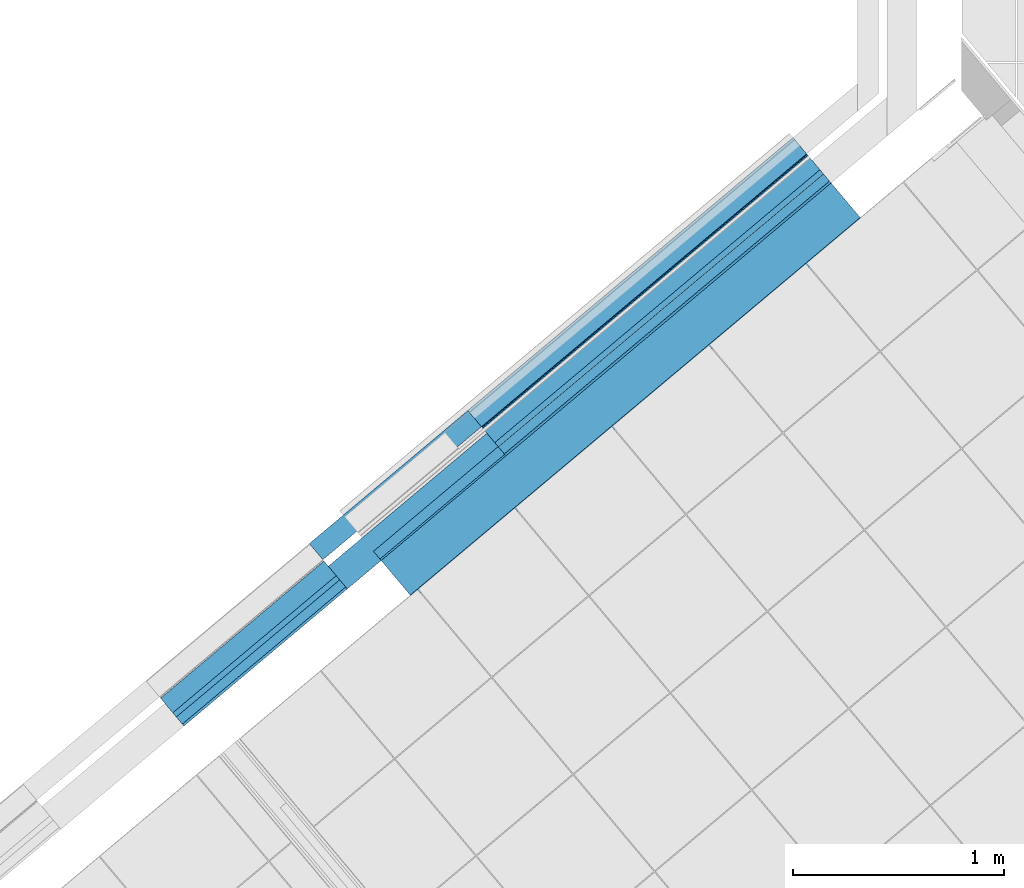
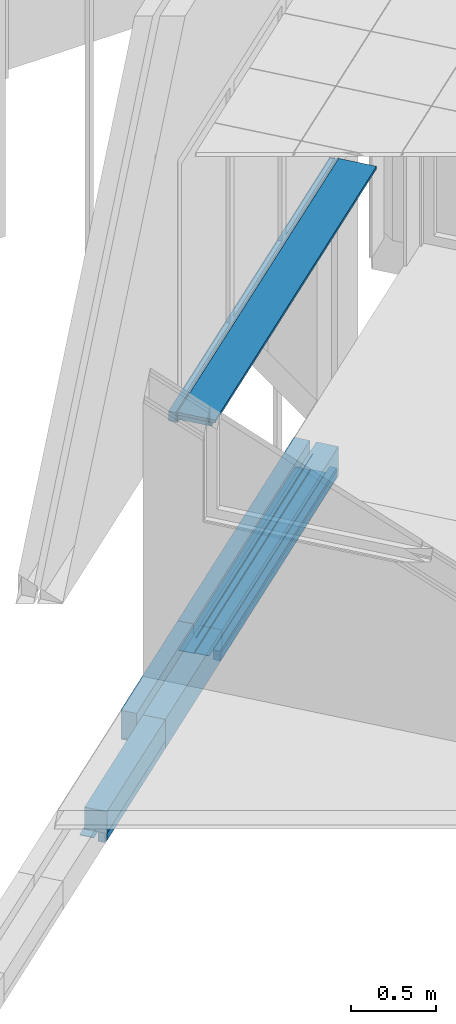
# One storey, part 56 of 321: 17 building element parts, 4 elements without a shape of their own.
"""IFC2X3 building model written with IfcOpenShell, lengths in millimetres."""

from ifc_helpers import new_model, entity, si_unit, converted_unit, derived_unit, money_unit, direction, frame, origin_with_axes, place, context, subcontext, project, spatial, faceted_brep, material, type_object, element, aggregate, save


model = new_model("IFC2X3")

# Units and contexts
model_context = context("Model", 3, precision=0.01, world=origin_with_axes(), true_north=direction((0.0, 1.0)))
plan_context = context("Plan", 3, precision=0.01, world=origin_with_axes(), true_north=direction((0.0, 1.0)))
body_context = subcontext(model_context, "Body", "Model", "MODEL_VIEW")
ifc_project = project(units=[si_unit("LENGTHUNIT", "METRE", prefix="MILLI"), si_unit("AREAUNIT", "SQUARE_METRE"), si_unit("VOLUMEUNIT", "CUBIC_METRE"), converted_unit("PLANEANGLEUNIT", "DEGREE", entity("IfcPlaneAngleMeasure", 0.0174532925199), si_unit("PLANEANGLEUNIT", "RADIAN"), dimensions=[0, 0, 0, 0, 0, 0, 0]), money_unit("EUR"), converted_unit("TIMEUNIT", "Year", entity("IfcTimeMeasure", 31556926.0), si_unit("TIMEUNIT", "SECOND"), dimensions=[0, 0, 1, 0, 0, 0, 0]), si_unit("MASSUNIT", "GRAM", prefix="KILO"), si_unit("THERMODYNAMICTEMPERATUREUNIT", "DEGREE_CELSIUS"), si_unit("LUMINOUSINTENSITYUNIT", "LUMEN"), si_unit("ENERGYUNIT", "JOULE", prefix="MEGA"), derived_unit("THERMALCONDUCTANCEUNIT", [(si_unit("POWERUNIT", "WATT"), 1), (si_unit("LENGTHUNIT", "METRE"), -1), (si_unit("THERMODYNAMICTEMPERATUREUNIT", "KELVIN"), -1)]), derived_unit("SPECIFICHEATCAPACITYUNIT", [(si_unit("ENERGYUNIT", "JOULE"), 1), (si_unit("MASSUNIT", "GRAM", prefix="KILO"), -1), (si_unit("THERMODYNAMICTEMPERATUREUNIT", "KELVIN"), -1)]), derived_unit("MASSDENSITYUNIT", [(si_unit("MASSUNIT", "GRAM", prefix="KILO"), 1), (si_unit("VOLUMEUNIT", "CUBIC_METRE"), -1)])], contexts=[model_context, plan_context])

# Site, building, storey
site_placement = place(None, origin_with_axes())
site = spatial("IfcSite", under=ifc_project, at=site_placement, Name="Fortuinstraat Woensdrecht", CompositionType="ELEMENT")
building_placement = place(site_placement, origin_with_axes())
building = spatial("IfcBuilding", under=site, at=building_placement, Name="IKC Fortuna", CompositionType="ELEMENT")
storey_placement = place(building_placement, frame((0.0, 0.0, 4000.0), z_axis=(0.0, 0.0, 1.0), x_axis=(1.0, 0.0, 0.0)))
storey = spatial("IfcBuildingStorey", under=building, at=storey_placement, Name="01 eerste verdieping", CompositionType="ELEMENT", Elevation=4000.0)

# Covering, building element parts
covering_type_1 = type_object("IfcCoveringType", Name="41 Latei MW rollaag 280 x 227", PredefinedType="NOTDEFINED")
covering_1_placement = place(storey_placement, frame((10037.4088106, 8605.14305143, 237.5), z_axis=(0.0, 0.0, 1.0), x_axis=(0.766044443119, 0.642787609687, 0.0)))
covering_1 = element("IfcCovering", 1, at=covering_1_placement, inside=storey, type_object=covering_type_1, Name="41_Afwerking_Latei + rollaag", PredefinedType="NOTDEFINED")
ifc_material_1 = material(Name="Metaal - Staal AFW")
building_element_part_1_placement = place(covering_1_placement, origin_with_axes())
building_element_part_1 = element("IfcBuildingElementPart", 2, at=building_element_part_1_placement, material=ifc_material_1, Name="Metaal - Staal AFW", context=body_context, shape_type="Brep", body=[
    faceted_brep([(1010.0, 32.0, 2.5), (1010.0, 27.4409013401, 2.5), (1010.0, 27.4409013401, 4.0), (1010.0, -58.0, 4.0), (1010.0, -58.0, 0.0), (1010.0, 32.0, 0.0), (0.0, 32.0, 2.5), (0.0, 27.4409013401, 2.5), (0.0, 27.4409013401, 4.0), (0.0, -58.0, 4.0), (0.0, -58.0, 0.0), (0.0, 32.0, 0.0)], [[[0, 1, 2, 3, 4, 5]], [[1, 0, 6, 7]], [[8, 2, 1, 7]], [[2, 8, 9, 3]], [[10, 4, 3, 9]], [[11, 5, 4, 10]], [[6, 0, 5, 11]], [[7, 6, 11, 10, 9, 8]]]),
])
ifc_material_2 = material(Name="ALG - ISOLATIE")
building_element_part_2_placement = place(covering_1_placement, origin_with_axes())
building_element_part_2 = element("IfcBuildingElementPart", 3, at=building_element_part_2_placement, material=ifc_material_2, Name="ALG - ISOLATIE", context=body_context, shape_type="Brep", body=[
    faceted_brep([(0.0, -140.0, 53.0), (1010.0, -140.0, 53.0), (1010.0, -140.0, 210.0), (0.0, -140.0, 210.0), (0.0, -83.9999988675, 53.0000013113), (1010.0, -83.9999988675, 53.0000013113), (1010.0, 0.0, 53.0), (1010.0, 0.0, 210.0), (0.0, 0.0, 210.0), (0.0, 0.0, 53.0)], [[[0, 1, 2, 3]], [[4, 5, 1, 0]], [[2, 1, 5, 6, 7]], [[3, 2, 7, 8]], [[4, 0, 3, 8, 9]], [[9, 6, 5, 4]], [[8, 7, 6, 9]]]),
])
ifc_material_3 = material(Name="Hout AFW")
building_element_part_3_placement = place(covering_1_placement, origin_with_axes())
building_element_part_3 = element("IfcBuildingElementPart", 4, at=building_element_part_3_placement, material=ifc_material_3, Name="Hout AFW", context=body_context, shape_type="Brep", body=[
    faceted_brep([(0.0, -127.999998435, 53.0000013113), (1010.0, -127.999998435, 53.0000013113), (1010.0, -83.9999988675, 53.0000013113), (0.0, -83.9999988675, 53.0000013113), (0.0, -127.999998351, -1.28576260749e-07), (1010.0, -127.999998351, -1.28576260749e-07), (1010.0, -127.999998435, -17.0), (1010.0, -83.9999988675, -17.0), (0.0, -83.9999988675, -17.0), (0.0, -127.999998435, -17.0)], [[[0, 1, 2, 3]], [[4, 5, 1, 0]], [[2, 1, 5, 6, 7]], [[3, 2, 7, 8]], [[4, 0, 3, 8, 9]], [[9, 6, 5, 4]], [[8, 7, 6, 9]]]),
])
ifc_material_4 = material(Name="Isolatie - PUR gespoten")
building_element_part_4_placement = place(covering_1_placement, origin_with_axes())
building_element_part_4 = element("IfcBuildingElementPart", 5, at=building_element_part_4_placement, material=ifc_material_4, Name="Isolatie - PUR gespoten", context=body_context, shape_type="Brep", body=[
    faceted_brep([(0.0, -139.999999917, 53.0000002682), (1010.0, -139.999999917, 53.0000002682), (1010.0, -127.999998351, 53.0000013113), (0.0, -127.999998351, 53.0000013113), (0.0, -139.999999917, -1.28576260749e-07), (1010.0, -139.999999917, -1.28576260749e-07), (1010.0, -127.999998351, -1.28576260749e-07), (0.0, -127.999998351, -1.28576260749e-07)], [[[0, 1, 2, 3]], [[4, 5, 1, 0]], [[2, 1, 5, 6]], [[3, 2, 6, 7]], [[4, 0, 3, 7]], [[7, 6, 5, 4]]]),
])
aggregate(covering_1, [building_element_part_1, building_element_part_2, building_element_part_3, building_element_part_4])

covering_type_2 = type_object("IfcCoveringType", Name="41 Rollaag 280 x 210", PredefinedType="NOTDEFINED")
covering_2_placement = place(storey_placement, frame((10811.1136981, 9254.35853721, 237.5), z_axis=(0.0, 0.0, 1.0), x_axis=(0.766044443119, 0.642787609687, 0.0)))
covering_2 = element("IfcCovering", 6, at=covering_2_placement, inside=storey, type_object=covering_type_2, Name="41_Afwerking_Rollaag", PredefinedType="NOTDEFINED")
ifc_material_5 = material(Name="Steen - Baksteen Accent Rollaag")
building_element_part_5_placement = place(covering_2_placement, origin_with_axes())
building_element_part_5 = element("IfcBuildingElementPart", 7, at=building_element_part_5_placement, material=ifc_material_5, Name="Steen - Baksteen Accent Rollaag", context=body_context, shape_type="Brep", body=[
    faceted_brep([(104.323191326, 40.0, 2.5), (0.0, 40.0, 2.5), (0.0, 40.0, 0.0), (980.000020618, 40.0, 0.0), (980.000020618, 40.0, 2.5), (830.00002065, 40.0, 2.5), (830.00002065, 40.0, 18.3217893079), (980.000020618, 40.0, 18.3217893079), (980.000020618, 40.0, 210.0), (0.0, 40.0, 210.0), (0.0, 40.0, 18.3217893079), (104.323191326, 40.0, 18.3217893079), (104.323191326, 127.44090134, 2.49999999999), (0.0, 127.44090134, 2.49999999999), (0.0, 40.9556199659, 16.0147186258), (0.0, 140.0, 210.0), (0.0, 140.0, 0.0), (0.0, 127.44090134, 6.49999999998), (0.0, 125.683542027, 10.7426406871), (0.0, 121.44090134, 12.5), (0.0, 49.4409013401, 12.5), (980.000020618, 140.0, 0.0), (980.000020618, 127.44090134, 2.49999999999), (980.000020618, 140.0, 210.0), (980.000020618, 40.9556199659, 16.0147186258), (980.000020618, 49.4409013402, 12.5), (980.000020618, 121.44090134, 12.5), (980.000020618, 125.683542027, 10.7426406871), (980.000020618, 127.44090134, 6.49999999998), (830.00002065, 127.44090134, 2.49999999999), (830.00002065, 127.44090134, 6.49999999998), (830.00002065, 125.683542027, 10.7426406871), (830.00002065, 121.44090134, 12.5), (830.00002065, 49.4409013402, 12.5), (830.00002065, 40.9556199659, 16.0147186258), (104.323191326, 40.9556199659, 16.0147186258), (104.323191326, 49.4409013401, 12.5), (104.323191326, 121.44090134, 12.5), (104.323191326, 125.683542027, 10.7426406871), (104.323191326, 127.44090134, 6.49999999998)], [[[0, 1, 2, 3, 4, 5, 6, 7, 8, 9, 10, 11]], [[1, 0, 12, 13]], [[14, 10, 9, 15, 16, 2, 1, 13, 17, 18, 19, 20]], [[16, 21, 3, 2]], [[22, 4, 3, 21, 23, 8, 7, 24, 25, 26, 27, 28]], [[5, 4, 22, 29]], [[6, 5, 29, 30, 31, 32, 33, 34]], [[24, 7, 6, 34]], [[9, 8, 23, 15]], [[11, 10, 14, 35]], [[0, 11, 35, 36, 37, 38, 39, 12]], [[17, 13, 12, 39]], [[15, 23, 21, 16]], [[18, 17, 39, 38]], [[19, 18, 38, 37]], [[20, 19, 37, 36]], [[14, 20, 36, 35]], [[25, 24, 34, 33]], [[26, 25, 33, 32]], [[27, 26, 32, 31]], [[28, 27, 31, 30]], [[22, 28, 30, 29]]]),
])
building_element_part_6_placement = place(covering_2_placement, origin_with_axes())
building_element_part_6 = element("IfcBuildingElementPart", 8, at=building_element_part_6_placement, material=ifc_material_2, Name="ALG - ISOLATIE", context=body_context, shape_type="Brep", body=[
    faceted_brep([(0.0, 0.0, 0.0), (980.000020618, 0.0, 0.0), (980.000020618, -140.0, 0.0), (0.0, -140.0, 0.0), (0.0, 0.0, 210.0), (980.000020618, 0.0, 210.0), (980.000020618, -140.0, 210.0), (0.0, -140.0, 210.0)], [[[0, 1, 2, 3]], [[4, 5, 1, 0]], [[2, 1, 5, 6]], [[3, 2, 6, 7]], [[4, 0, 3, 7]], [[7, 6, 5, 4]]]),
])
aggregate(covering_2, [building_element_part_5, building_element_part_6])

covering_3_placement = place(storey_placement, frame((11561.8372682, 9884.29040795, 237.5), z_axis=(0.0, 0.0, 1.0), x_axis=(0.766044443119, 0.642787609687, 0.0)))
covering_3 = element("IfcCovering", 9, at=covering_3_placement, inside=storey, type_object=covering_type_1, Name="41_Afwerking_Latei + rollaag", PredefinedType="NOTDEFINED")
ifc_material_6 = material(Name="Metaal - Staal C")
building_element_part_7_placement = place(covering_3_placement, origin_with_axes())
building_element_part_7 = element("IfcBuildingElementPart", 10, at=building_element_part_7_placement, material=ifc_material_6, Name="Metaal - Staal C", context=body_context, shape_type="Brep", body=[
    faceted_brep([(2010.0, 36.6213203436, 2.5), (2010.0, 32.0, 2.5), (2010.0, 32.0, 0.0), (2010.0, 33.1715728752, -2.82842712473), (2010.0, 36.0, -4.0), (2010.0, 115.215535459, -4.0), (2010.0, 135.215535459, -8.0), (2010.0, 136.0, -4.07767729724), (2010.0, 115.609685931, 0.0), (2010.0, 40.0, 0.0), (2010.0, 37.1715728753, 1.17157287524), (0.0, 32.0, 2.5), (0.0, 36.6213203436, 2.5), (0.0, 32.0, 0.0), (0.0, 33.1715728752, -2.82842712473), (0.0, 36.0, -4.0), (0.0, 115.215535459, -4.0), (0.0, 135.215535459, -8.0), (0.0, 136.0, -4.07767729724), (0.0, 115.609685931, 0.0), (0.0, 40.0, 0.0), (0.0, 37.1715728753, 1.17157287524)], [[[0, 1, 2, 3, 4, 5, 6, 7, 8, 9, 10]], [[11, 1, 0, 12]], [[1, 11, 13, 2]], [[14, 3, 2, 13]], [[15, 4, 3, 14]], [[16, 5, 4, 15]], [[17, 6, 5, 16]], [[18, 7, 6, 17]], [[19, 8, 7, 18]], [[20, 9, 8, 19]], [[21, 10, 9, 20]], [[12, 0, 10, 21]], [[11, 12, 21, 20, 19, 18, 17, 16, 15, 14, 13]]]),
    faceted_brep([(2010.0, 27.4409013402, 109.55909866), (2010.0, 27.4409013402, 115.160983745), (2010.0, 20.8284271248, 121.828427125), (2010.0, 18.0000000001, 119.0), (0.0, 27.4409013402, 115.160983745), (0.0, 27.4409013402, 109.55909866), (0.0, 20.8284271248, 121.828427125), (0.0, 18.0000000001, 119.0)], [[[0, 1, 2, 3]], [[4, 1, 0, 5]], [[1, 4, 6, 2]], [[7, 3, 2, 6]], [[5, 0, 3, 7]], [[4, 5, 7, 6]]]),
])
building_element_part_8_placement = place(covering_3_placement, origin_with_axes())
building_element_part_8 = element("IfcBuildingElementPart", 11, at=building_element_part_8_placement, material=ifc_material_5, Name="Steen - Baksteen Accent Rollaag", context=body_context, shape_type="Brep", body=[
    faceted_brep([(0.0, 40.0, 18.3217893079), (2010.0, 40.0, 18.3217893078), (2010.0, 40.0, 210.0), (0.0, 40.0, 210.0), (2010.0, 40.9556199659, 16.0147186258), (0.0, 40.9556199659, 16.0147186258), (2010.0, 127.44090134, 2.49999999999), (2010.0, 40.0, 2.5), (2010.0, 40.0, 0.0), (2010.0, 115.609685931, 0.0), (2010.0, 140.0, 0.0), (2010.0, 140.0, 210.0), (2010.0, 49.4409013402, 12.5), (2010.0, 121.44090134, 12.5), (2010.0, 125.683542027, 10.7426406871), (2010.0, 127.44090134, 6.49999999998), (0.0, 140.0, 210.0), (0.0, 140.0, 0.0), (0.0, 115.609685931, 0.0), (0.0, 40.0, 0.0), (0.0, 40.0, 2.5), (0.0, 127.44090134, 2.49999999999), (0.0, 127.44090134, 6.49999999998), (0.0, 125.683542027, 10.7426406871), (0.0, 121.44090134, 12.5), (0.0, 49.4409013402, 12.5)], [[[0, 1, 2, 3]], [[4, 1, 0, 5]], [[6, 7, 8, 9, 10, 11, 2, 1, 4, 12, 13, 14, 15]], [[3, 2, 11, 16]], [[5, 0, 3, 16, 17, 18, 19, 20, 21, 22, 23, 24, 25]], [[12, 4, 5, 25]], [[20, 7, 6, 21]], [[7, 20, 19, 8]], [[18, 9, 8, 19]], [[17, 10, 9, 18]], [[16, 11, 10, 17]], [[13, 12, 25, 24]], [[14, 13, 24, 23]], [[15, 14, 23, 22]], [[6, 15, 22, 21]]]),
])
building_element_part_9_placement = place(covering_3_placement, origin_with_axes())
building_element_part_9 = element("IfcBuildingElementPart", 12, at=building_element_part_9_placement, material=ifc_material_1, Name="Metaal - Staal AFW", context=body_context, shape_type="Brep", body=[
    faceted_brep([(2010.0, 32.0, 2.5), (2010.0, 27.4409013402, 2.5), (2010.0, 27.4409013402, 4.0), (2010.0, -58.0, 4.0), (2010.0, -58.0, 0.0), (2010.0, 32.0, 0.0), (0.0, 32.0, 2.5), (0.0, 27.4409013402, 2.5), (0.0, 27.4409013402, 4.0), (0.0, -58.0, 4.0), (0.0, -58.0, 0.0), (0.0, 32.0, 0.0)], [[[0, 1, 2, 3, 4, 5]], [[1, 0, 6, 7]], [[8, 2, 1, 7]], [[2, 8, 9, 3]], [[10, 4, 3, 9]], [[11, 5, 4, 10]], [[6, 0, 5, 11]], [[7, 6, 11, 10, 9, 8]]]),
])
building_element_part_10_placement = place(covering_3_placement, origin_with_axes())
building_element_part_10 = element("IfcBuildingElementPart", 13, at=building_element_part_10_placement, material=ifc_material_2, Name="ALG - ISOLATIE", context=body_context, shape_type="Brep", body=[
    faceted_brep([(0.0, -140.0, 53.0), (2010.0, -140.0, 53.0), (2010.0, -140.0, 210.0), (0.0, -140.0, 210.0), (0.0, -83.9999988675, 53.0000013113), (2010.0, -83.9999988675, 53.0000013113), (2010.0, 0.0, 53.0), (2010.0, 0.0, 210.0), (0.0, 0.0, 210.0), (0.0, 0.0, 53.0)], [[[0, 1, 2, 3]], [[4, 5, 1, 0]], [[2, 1, 5, 6, 7]], [[3, 2, 7, 8]], [[4, 0, 3, 8, 9]], [[9, 6, 5, 4]], [[8, 7, 6, 9]]]),
])
building_element_part_11_placement = place(covering_3_placement, origin_with_axes())
building_element_part_11 = element("IfcBuildingElementPart", 14, at=building_element_part_11_placement, material=ifc_material_3, Name="Hout AFW", context=body_context, shape_type="Brep", body=[
    faceted_brep([(0.0, -127.999998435, 53.0000013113), (2010.0, -127.999998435, 53.0000013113), (2010.0, -83.9999988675, 53.0000013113), (0.0, -83.9999988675, 53.0000013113), (0.0, -127.999998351, -1.28576260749e-07), (2010.0, -127.999998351, -1.28576260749e-07), (2010.0, -127.999998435, -17.0), (2010.0, -83.9999988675, -17.0), (0.0, -83.9999988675, -17.0), (0.0, -127.999998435, -17.0)], [[[0, 1, 2, 3]], [[4, 5, 1, 0]], [[2, 1, 5, 6, 7]], [[3, 2, 7, 8]], [[4, 0, 3, 8, 9]], [[9, 6, 5, 4]], [[8, 7, 6, 9]]]),
])
building_element_part_12_placement = place(covering_3_placement, origin_with_axes())
building_element_part_12 = element("IfcBuildingElementPart", 15, at=building_element_part_12_placement, material=ifc_material_4, Name="Isolatie - PUR gespoten", context=body_context, shape_type="Brep", body=[
    faceted_brep([(0.0, -139.999999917, 53.0000002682), (2010.0, -139.999999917, 53.0000002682), (2010.0, -127.999998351, 53.0000013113), (0.0, -127.999998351, 53.0000013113), (0.0, -139.999999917, -1.28576260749e-07), (2010.0, -139.999999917, -1.28576260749e-07), (2010.0, -127.999998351, -1.28576260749e-07), (0.0, -127.999998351, -1.28576260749e-07)], [[[0, 1, 2, 3]], [[4, 5, 1, 0]], [[2, 1, 5, 6]], [[3, 2, 6, 7]], [[4, 0, 3, 7]], [[7, 6, 5, 4]]]),
])
aggregate(covering_3, [building_element_part_7, building_element_part_8, building_element_part_9, building_element_part_10, building_element_part_11, building_element_part_12])

covering_type_3 = type_object("IfcCoveringType", Name="41 Waterslag MW 545 x 90", PredefinedType="NOTDEFINED")
covering_4_placement = place(storey_placement, frame((13101.5865988, 11176.2935034, 2522.49999925), z_axis=(0.0, 0.0, 1.0), x_axis=(-0.766044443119, -0.642787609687, 0.0)))
covering_4 = element("IfcCovering", 16, at=covering_4_placement, inside=storey, type_object=covering_type_3, Name="41_Afwerking_Waterslag", PredefinedType="NOTDEFINED")
ifc_material_7 = material(Name="Steen - Natuursteen AFW")
building_element_part_13_placement = place(covering_4_placement, origin_with_axes())
building_element_part_13 = element("IfcBuildingElementPart", 17, at=building_element_part_13_placement, material=ifc_material_7, Name="Steen - Natuursteen AFW", context=body_context, shape_type="Brep", body=[
    faceted_brep([(2780.83841466, 353.999999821, -20.0000025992), (2780.83841466, 140.0, -20.0), (0.0, 140.0, -20.0), (0.0, 353.999999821, -20.0000025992), (2780.83841466, 378.0, -20.0), (2780.83841466, 378.0, 0.0), (2780.83841466, 140.0, 0.0), (0.0, 140.0, 0.0), (0.0, 378.0, 0.0), (0.0, 378.0, -20.0)], [[[0, 1, 2, 3]], [[0, 4, 5, 6, 1]], [[1, 6, 7, 2]], [[3, 2, 7, 8, 9]], [[4, 0, 3, 9]], [[5, 4, 9, 8]], [[6, 5, 8, 7]]]),
])
ifc_material_8 = material(Name="Cement")
building_element_part_14_placement = place(covering_4_placement, origin_with_axes())
building_element_part_14 = element("IfcBuildingElementPart", 18, at=building_element_part_14_placement, material=ifc_material_8, Name="Cement", context=body_context, shape_type="Brep", body=[
    faceted_brep([(2780.83841466, 353.999999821, -50.0000002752), (2780.83841466, 140.000000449, -50.0000002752), (0.0, 140.000000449, -50.0000002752), (0.0, 353.999999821, -50.0000002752), (2780.83841466, 353.999999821, -20.0000025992), (2780.83841466, 140.000000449, -19.9999992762), (0.0, 140.000000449, -19.9999992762), (0.0, 353.999999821, -20.0000025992)], [[[0, 1, 2, 3]], [[0, 4, 5, 1]], [[1, 5, 6, 2]], [[3, 2, 6, 7]], [[4, 0, 3, 7]], [[5, 4, 7, 6]]]),
])
ifc_material_9 = material(Name="Kit")
building_element_part_15_placement = place(covering_4_placement, origin_with_axes())
building_element_part_15 = element("IfcBuildingElementPart", 19, at=building_element_part_15_placement, material=ifc_material_9, Name="Kit", context=body_context, shape_type="Brep", body=[
    faceted_brep([(2780.83841466, 140.000000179, 2.53320919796e-07), (2780.83841466, 140.000000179, -19.9999998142), (0.0, 140.000000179, -19.9999998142), (0.0, 140.000000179, 2.53320919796e-07), (2780.83841466, 131.000000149, 2.53320919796e-07), (2780.83841466, 131.000000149, -4.99999976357), (2780.83841466, 131.000000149, -19.9999998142), (0.0, 131.000000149, -19.9999998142), (0.0, 131.000000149, -4.99999976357), (0.0, 131.000000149, 2.53320919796e-07)], [[[0, 1, 2, 3]], [[0, 4, 5, 6, 1]], [[1, 6, 7, 2]], [[3, 2, 7, 8, 9]], [[4, 0, 3, 9]], [[5, 4, 9, 8]], [[6, 5, 8, 7]]]),
])
building_element_part_16_placement = place(covering_4_placement, origin_with_axes())
building_element_part_16 = element("IfcBuildingElementPart", 20, at=building_element_part_16_placement, material=ifc_material_4, Name="Isolatie - PUR gespoten", context=body_context, shape_type="Brep", body=[
    faceted_brep([(2780.83841466, 140.000000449, -50.0000002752), (2780.83841466, 139.999999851, -75.0), (0.0, 139.999999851, -75.0), (0.0, 140.000000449, -50.0000002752), (2780.83841466, 139.999999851, -19.999999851), (2780.83841466, 131.000000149, -19.999999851), (2780.83841466, 131.000000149, -75.0), (0.0, 131.000000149, -75.0), (0.0, 131.000000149, -19.999999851), (0.0, 139.999999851, -19.999999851)], [[[0, 1, 2, 3]], [[0, 4, 5, 6, 1]], [[1, 6, 7, 2]], [[3, 2, 7, 8, 9]], [[4, 0, 3, 9]], [[5, 4, 9, 8]], [[6, 5, 8, 7]]]),
])
building_element_part_17_placement = place(covering_4_placement, origin_with_axes())
building_element_part_17 = element("IfcBuildingElementPart", 21, at=building_element_part_17_placement, material=ifc_material_3, Name="Hout AFW", context=body_context, shape_type="Brep", body=[
    faceted_brep([(2780.83841466, 131.0, -75.0), (2780.83841466, 83.0, -75.0), (0.0, 83.0, -75.0), (0.0, 131.0, -75.0), (2780.83841466, 131.0, -5.0), (2780.83841466, 83.0, -5.0), (2780.83841466, 82.9963036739, -16.4250305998), (2780.83841466, 82.9963036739, -16.8314231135), (0.0, 82.9963036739, -16.8314231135), (0.0, 82.9963036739, -16.4250305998), (0.0, 83.0, -5.0), (0.0, 131.0, -5.0)], [[[0, 1, 2, 3]], [[0, 4, 5, 6, 7, 1]], [[1, 7, 8, 2]], [[3, 2, 8, 9, 10, 11]], [[4, 0, 3, 11]], [[5, 4, 11, 10]], [[6, 5, 10, 9]], [[7, 6, 9, 8]]]),
])
aggregate(covering_4, [building_element_part_13, building_element_part_14, building_element_part_15, building_element_part_16, building_element_part_17])

save(model, "model.ifc")
